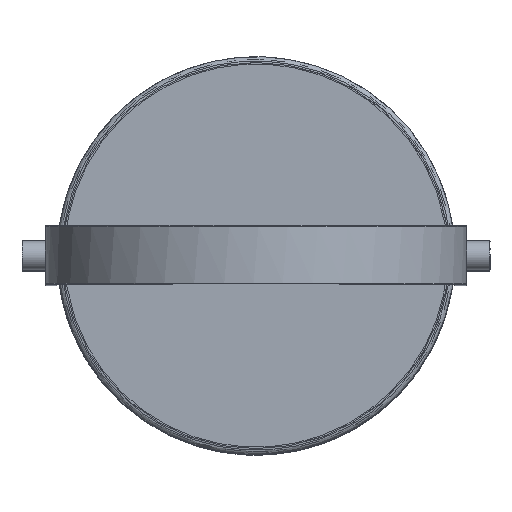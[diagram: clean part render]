
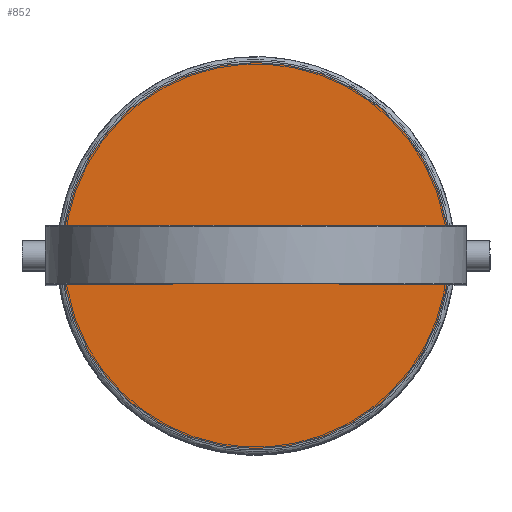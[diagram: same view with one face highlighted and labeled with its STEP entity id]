
A CAD part, top view. The second image highlights one B-rep face of the part: STEP entity #852.
In plain terms, the highlighted planar face has unit normal (0, 0, 1).
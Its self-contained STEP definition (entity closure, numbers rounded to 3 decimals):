
#852=ADVANCED_FACE('',(#1888),#12906,.T.);
#1888=FACE_OUTER_BOUND('',#2893,.T.);
#2893=EDGE_LOOP('',(#4851,#4852));
#4851=ORIENTED_EDGE('',*,*,#8291,.F.);
#4852=ORIENTED_EDGE('',*,*,#8273,.F.);
#8273=EDGE_CURVE('',#12062,#12073,#11090,.T.);
#8291=EDGE_CURVE('',#12073,#12062,#11101,.T.);
#11090=(
BOUNDED_CURVE()
B_SPLINE_CURVE(3,(#24802,#24803,#24804,#24805,#24806,#24807,#24808,#24809,
#24810,#24811,#24812,#24813,#24814,#24815,#24816,#24817,#24818,#24819,#24820,
#24821,#24822,#24823,#24824,#24825,#24826,#24827,#24828,#24829,#24830,#24831,
#24832,#24833,#24834,#24835,#24836,#24837,#24838,#24839,#24840,#24841,#24842,
#24843,#24844,#24845,#24846,#24847,#24848,#24849,#24850),.UNSPECIFIED.,
 .F.,.F.)
B_SPLINE_CURVE_WITH_KNOTS((4,3,3,3,3,3,3,3,3,3,3,3,3,3,3,3,4),(0.,12.44,
24.879,38.358,51.836,65.315,78.793,
91.233,103.672,116.112,128.552,142.03,
155.509,168.987,182.466,194.905,207.345),
 .UNSPECIFIED.)
CURVE()
GEOMETRIC_REPRESENTATION_ITEM()
RATIONAL_B_SPLINE_CURVE((1.,1.,1.,1.,1.,1.,1.,1.,1.,1.,1.,
1.,1.,1.,1.,1.,1.,1.,1.,1.,1.,1.,1.,1.,
1.,1.,1.,1.,1.,1.,1.,1.,1.,1.,1.,1.,1.,
1.,1.,1.,1.,1.,1.,1.,1.,1.,1.,1.,1.))
REPRESENTATION_ITEM('')
);
#11101=(
BOUNDED_CURVE()
B_SPLINE_CURVE(3,(#25059,#25060,#25061,#25062,#25063,#25064,#25065,#25066,
#25067,#25068,#25069,#25070,#25071,#25072,#25073,#25074,#25075,#25076,#25077,
#25078,#25079,#25080,#25081,#25082,#25083,#25084,#25085,#25086,#25087,#25088,
#25089,#25090,#25091,#25092,#25093,#25094,#25095,#25096,#25097,#25098,#25099,
#25100,#25101,#25102,#25103,#25104,#25105,#25106,#25107),.UNSPECIFIED.,
 .F.,.F.)
B_SPLINE_CURVE_WITH_KNOTS((4,3,3,3,3,3,3,3,3,3,3,3,3,3,3,3,4),(207.345,
219.784,232.224,245.703,259.181,272.659,
286.138,298.578,311.017,323.457,335.896,
349.375,362.853,376.332,389.81,402.25,
414.69),.UNSPECIFIED.)
CURVE()
GEOMETRIC_REPRESENTATION_ITEM()
RATIONAL_B_SPLINE_CURVE((1.,1.,1.,1.,1.,
1.,1.,1.,1.,1.,1.,1.,1.,1.,1.,1.,1.,1.,1.,1.,1.,1.,1.,1.,
1.,1.,1.,1.,1.,1.,1.,1.,1.,1.,
1.,1.,1.,1.,1.,1.,1.,1.,1.,1.,1.,1.,1.,1.,
1.))
REPRESENTATION_ITEM('')
);
#12062=VERTEX_POINT('',#24632);
#12073=VERTEX_POINT('',#24643);
#12906=PLANE('',#13891);
#13891=AXIS2_PLACEMENT_3D('',#24335,#14179,$);
#14179=DIRECTION('',(0.,0.,1.));
#24335=CARTESIAN_POINT('',(-85.,85.,195.));
#24632=CARTESIAN_POINT('',(66.,0.,195.));
#24643=CARTESIAN_POINT('',(-66.,0.,195.));
#24802=CARTESIAN_POINT('',(66.,0.,195.));
#24803=CARTESIAN_POINT('',(66.,-4.147,195.));
#24804=CARTESIAN_POINT('',(65.608,-8.293,195.));
#24805=CARTESIAN_POINT('',(64.831,-12.366,195.));
#24806=CARTESIAN_POINT('',(64.054,-16.439,195.));
#24807=CARTESIAN_POINT('',(62.893,-20.439,195.));
#24808=CARTESIAN_POINT('',(61.366,-24.294,195.));
#24809=CARTESIAN_POINT('',(59.712,-28.472,195.));
#24810=CARTESIAN_POINT('',(57.631,-32.48,195.));
#24811=CARTESIAN_POINT('',(55.164,-36.235,195.));
#24812=CARTESIAN_POINT('',(52.697,-39.99,195.));
#24813=CARTESIAN_POINT('',(49.846,-43.492,195.));
#24814=CARTESIAN_POINT('',(46.669,-46.669,195.));
#24815=CARTESIAN_POINT('',(43.492,-49.846,195.));
#24816=CARTESIAN_POINT('',(39.99,-52.697,195.));
#24817=CARTESIAN_POINT('',(36.235,-55.164,195.));
#24818=CARTESIAN_POINT('',(32.48,-57.631,195.));
#24819=CARTESIAN_POINT('',(28.472,-59.712,195.));
#24820=CARTESIAN_POINT('',(24.294,-61.366,195.));
#24821=CARTESIAN_POINT('',(20.439,-62.893,195.));
#24822=CARTESIAN_POINT('',(16.439,-64.054,195.));
#24823=CARTESIAN_POINT('',(12.366,-64.831,195.));
#24824=CARTESIAN_POINT('',(8.293,-65.608,195.));
#24825=CARTESIAN_POINT('',(4.147,-66.,195.));
#24826=CARTESIAN_POINT('',(0.,-66.,195.));
#24827=CARTESIAN_POINT('',(-4.147,-66.,195.));
#24828=CARTESIAN_POINT('',(-8.293,-65.608,195.));
#24829=CARTESIAN_POINT('',(-12.366,-64.831,195.));
#24830=CARTESIAN_POINT('',(-16.439,-64.054,195.));
#24831=CARTESIAN_POINT('',(-20.439,-62.893,195.));
#24832=CARTESIAN_POINT('',(-24.294,-61.366,195.));
#24833=CARTESIAN_POINT('',(-28.472,-59.712,195.));
#24834=CARTESIAN_POINT('',(-32.48,-57.631,195.));
#24835=CARTESIAN_POINT('',(-36.235,-55.164,195.));
#24836=CARTESIAN_POINT('',(-39.99,-52.697,195.));
#24837=CARTESIAN_POINT('',(-43.492,-49.846,195.));
#24838=CARTESIAN_POINT('',(-46.669,-46.669,195.));
#24839=CARTESIAN_POINT('',(-49.846,-43.492,195.));
#24840=CARTESIAN_POINT('',(-52.697,-39.99,195.));
#24841=CARTESIAN_POINT('',(-55.164,-36.235,195.));
#24842=CARTESIAN_POINT('',(-57.631,-32.48,195.));
#24843=CARTESIAN_POINT('',(-59.712,-28.472,195.));
#24844=CARTESIAN_POINT('',(-61.366,-24.294,195.));
#24845=CARTESIAN_POINT('',(-62.893,-20.439,195.));
#24846=CARTESIAN_POINT('',(-64.054,-16.439,195.));
#24847=CARTESIAN_POINT('',(-64.831,-12.366,195.));
#24848=CARTESIAN_POINT('',(-65.608,-8.293,195.));
#24849=CARTESIAN_POINT('',(-66.,-4.147,195.));
#24850=CARTESIAN_POINT('',(-66.,0.,195.));
#25059=CARTESIAN_POINT('',(-66.,0.,195.));
#25060=CARTESIAN_POINT('',(-66.,4.147,195.));
#25061=CARTESIAN_POINT('',(-65.608,8.293,195.));
#25062=CARTESIAN_POINT('',(-64.831,12.366,195.));
#25063=CARTESIAN_POINT('',(-64.054,16.439,195.));
#25064=CARTESIAN_POINT('',(-62.893,20.439,195.));
#25065=CARTESIAN_POINT('',(-61.366,24.294,195.));
#25066=CARTESIAN_POINT('',(-59.712,28.472,195.));
#25067=CARTESIAN_POINT('',(-57.631,32.48,195.));
#25068=CARTESIAN_POINT('',(-55.164,36.235,195.));
#25069=CARTESIAN_POINT('',(-52.697,39.99,195.));
#25070=CARTESIAN_POINT('',(-49.846,43.492,195.));
#25071=CARTESIAN_POINT('',(-46.669,46.669,195.));
#25072=CARTESIAN_POINT('',(-43.492,49.846,195.));
#25073=CARTESIAN_POINT('',(-39.99,52.697,195.));
#25074=CARTESIAN_POINT('',(-36.235,55.164,195.));
#25075=CARTESIAN_POINT('',(-32.48,57.631,195.));
#25076=CARTESIAN_POINT('',(-28.472,59.712,195.));
#25077=CARTESIAN_POINT('',(-24.294,61.366,195.));
#25078=CARTESIAN_POINT('',(-20.439,62.893,195.));
#25079=CARTESIAN_POINT('',(-16.439,64.054,195.));
#25080=CARTESIAN_POINT('',(-12.366,64.831,195.));
#25081=CARTESIAN_POINT('',(-8.293,65.608,195.));
#25082=CARTESIAN_POINT('',(-4.147,66.,195.));
#25083=CARTESIAN_POINT('',(0.,66.,195.));
#25084=CARTESIAN_POINT('',(4.147,66.,195.));
#25085=CARTESIAN_POINT('',(8.293,65.608,195.));
#25086=CARTESIAN_POINT('',(12.366,64.831,195.));
#25087=CARTESIAN_POINT('',(16.439,64.054,195.));
#25088=CARTESIAN_POINT('',(20.439,62.893,195.));
#25089=CARTESIAN_POINT('',(24.294,61.366,195.));
#25090=CARTESIAN_POINT('',(28.472,59.712,195.));
#25091=CARTESIAN_POINT('',(32.48,57.631,195.));
#25092=CARTESIAN_POINT('',(36.235,55.164,195.));
#25093=CARTESIAN_POINT('',(39.99,52.697,195.));
#25094=CARTESIAN_POINT('',(43.492,49.846,195.));
#25095=CARTESIAN_POINT('',(46.669,46.669,195.));
#25096=CARTESIAN_POINT('',(49.846,43.492,195.));
#25097=CARTESIAN_POINT('',(52.697,39.99,195.));
#25098=CARTESIAN_POINT('',(55.164,36.235,195.));
#25099=CARTESIAN_POINT('',(57.631,32.48,195.));
#25100=CARTESIAN_POINT('',(59.712,28.472,195.));
#25101=CARTESIAN_POINT('',(61.366,24.294,195.));
#25102=CARTESIAN_POINT('',(62.893,20.439,195.));
#25103=CARTESIAN_POINT('',(64.054,16.439,195.));
#25104=CARTESIAN_POINT('',(64.831,12.366,195.));
#25105=CARTESIAN_POINT('',(65.608,8.293,195.));
#25106=CARTESIAN_POINT('',(66.,4.147,195.));
#25107=CARTESIAN_POINT('',(66.,0.,195.));
